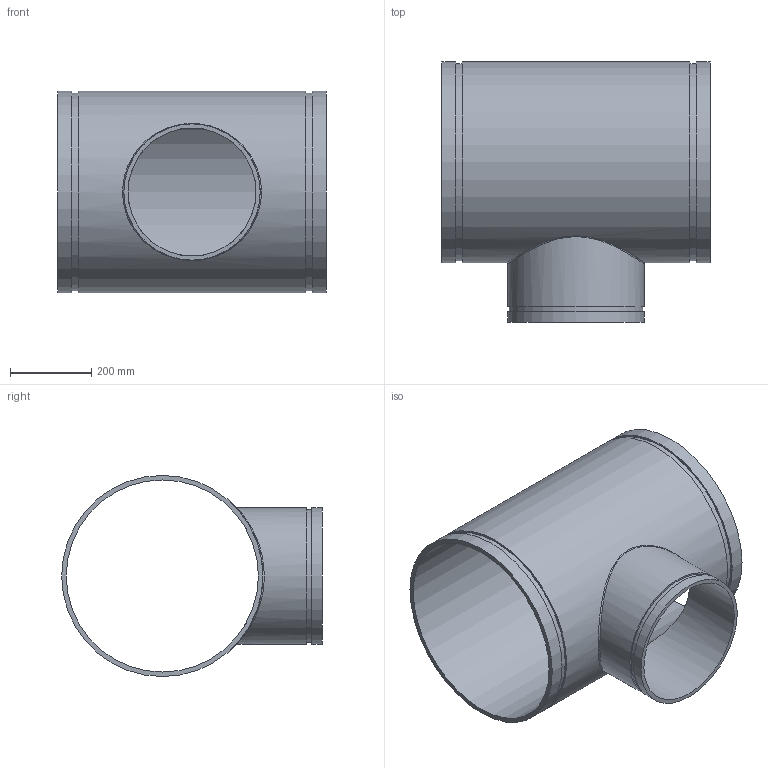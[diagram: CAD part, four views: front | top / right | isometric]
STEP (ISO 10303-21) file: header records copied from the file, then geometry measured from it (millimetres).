
FILE_DESCRIPTION(/* description */ ('VIC REDUCING TEE No 25-C','CAx-IF Rec.Pracs.---Representation and Presentation of Product Manufacturing Information (PMI)---4.0---2014-10-13'),/* implementation_level */ '2;1');
FILE_NAME(/* name */ 'C:\Users\Vjadhav\AppData\Roaming\Autodesk\ApplicationPlugins\Back Up\Victaulic_AWWA_Tee Reducing_No 25-C (DRG)\Victaulic_AWWA_Tee Reducing_No 25-C (DRG)_18.0x12.0 (450x300).stp',/* time_stamp */ '2020-08-18T18:18:28+06:00',/* author */ ('CORINNE GRAY'),/* organization */ ('Victaulic'),/* preprocessor_version */ 'ST-DEVELOPER v17.2',/* originating_system */ 'Autodesk Inventor 2019',/* authorisation */ '');
FILE_SCHEMA (('AP242_MANAGED_MODEL_BASED_3D_ENGINEERING_MIM_LF { 1 0 10303 442 1 1 4 }'));
Length unit declared in the file: inch
Products named in the file (1): 25C-18.0x12.0
Bounding box: 660.4 x 641.35 x 495.3 mm (x, y, z)
Volume: 11837204.2 mm3; surface area: 2281863.4 mm2
Topology: 1 solids, 1 shells, 20 faces, 44 edges, 33 vertices
Faces by surface type: cylinder 10, plane 9, bspline 1
Full cylindrical faces by diameter (mm): 314.96 x1, 327.812 x1, 335.28 x2, 472.948 x1, 485.775 x2, 495.3 x3
Entity records: 1117 total; most frequent: CARTESIAN_POINT 493, DIRECTION 135, ORIENTED_EDGE 90, AXIS2_PLACEMENT_3D 62, EDGE_CURVE 45, VERTEX_POINT 34, EDGE_LOOP 31, CIRCLE 29
